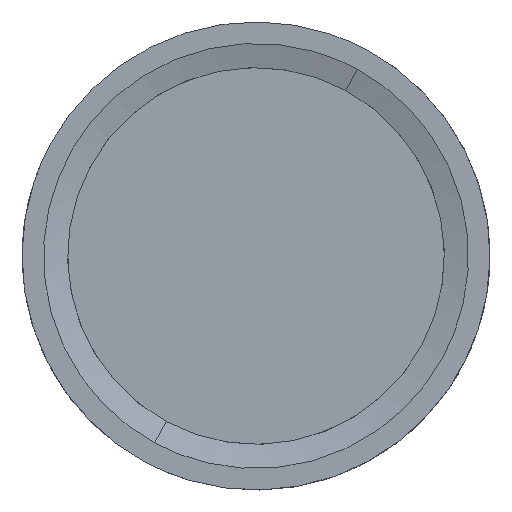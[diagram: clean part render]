
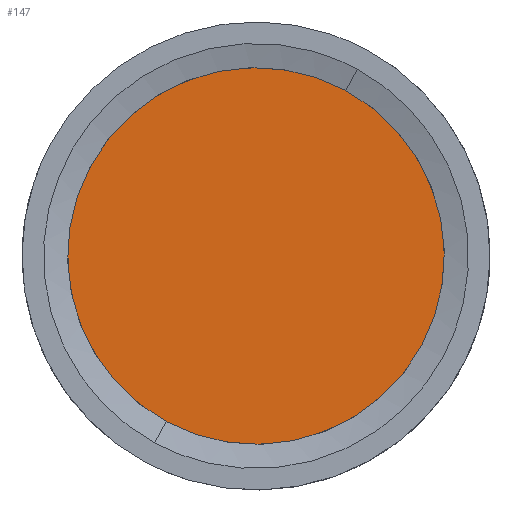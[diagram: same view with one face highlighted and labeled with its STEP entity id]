
A CAD part, left-side view. The second image highlights one B-rep face of the part: STEP entity #147.
In plain terms, the highlighted free-form (B-spline) face has degree [1, 1] with [2, 2] control points.
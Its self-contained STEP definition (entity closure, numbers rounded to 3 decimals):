
#147=ADVANCED_FACE('',(#299),#300,.T.);
#299=FACE_OUTER_BOUND('',#901,.T.);
#300=B_SPLINE_SURFACE_WITH_KNOTS('',1,1,((#902,#903),(#904,#905)),.UNSPECIFIED.,.F.,.F.,.F.,(2,2),(2,2),(0.0,64.0),(0.0,64.),.UNSPECIFIED.);
#901=EDGE_LOOP('',(#1359,#1360,#1361));
#902=CARTESIAN_POINT('',(-13.685,-32.0,-32.0));
#903=CARTESIAN_POINT('',(-13.685,32.,-32.0));
#904=CARTESIAN_POINT('',(-13.685,-32.0,32.0));
#905=CARTESIAN_POINT('',(-13.685,32.,32.0));
#1359=ORIENTED_EDGE('',*,*,#1603,.T.);
#1360=ORIENTED_EDGE('',*,*,#1509,.T.);
#1361=ORIENTED_EDGE('',*,*,#1604,.T.);
#1509=EDGE_CURVE('',#1724,#1728,#1730,.T.);
#1603=EDGE_CURVE('',#1863,#1724,#1864,.T.);
#1604=EDGE_CURVE('',#1728,#1863,#1865,.T.);
#1724=VERTEX_POINT('',#2303);
#1728=VERTEX_POINT('',#2308);
#1730=(B_SPLINE_CURVE(2,(#2312,#2313,#2314,#2315,#2316),.UNSPECIFIED.,.F.,.F.)B_SPLINE_CURVE_WITH_KNOTS((3,2,3),(-1.571,0.,1.571),.UNSPECIFIED.)RATIONAL_B_SPLINE_CURVE((1.0,0.707,1.0,0.707,1.0))BOUNDED_CURVE()REPRESENTATION_ITEM('')GEOMETRIC_REPRESENTATION_ITEM()CURVE());
#1863=VERTEX_POINT('',#2801);
#1864=(B_SPLINE_CURVE(2,(#2803,#2804,#2805),.UNSPECIFIED.,.F.,.F.)B_SPLINE_CURVE_WITH_KNOTS((3,3),(-3.142,-1.571),.UNSPECIFIED.)RATIONAL_B_SPLINE_CURVE((1.0,0.707,1.0))BOUNDED_CURVE()REPRESENTATION_ITEM('')GEOMETRIC_REPRESENTATION_ITEM()CURVE());
#1865=(B_SPLINE_CURVE(2,(#2813,#2814,#2815),.UNSPECIFIED.,.F.,.F.)B_SPLINE_CURVE_WITH_KNOTS((3,3),(1.571,3.142),.UNSPECIFIED.)RATIONAL_B_SPLINE_CURVE((1.0,0.707,1.0))BOUNDED_CURVE()REPRESENTATION_ITEM('')GEOMETRIC_REPRESENTATION_ITEM()CURVE());
#2303=CARTESIAN_POINT('',(-13.685,-15.245,28.135));
#2308=CARTESIAN_POINT('',(-13.685,15.245,-28.135));
#2312=CARTESIAN_POINT('',(-13.685,-15.245,28.135));
#2313=CARTESIAN_POINT('',(-13.685,12.889,43.38));
#2314=CARTESIAN_POINT('',(-13.685,28.135,15.245));
#2315=CARTESIAN_POINT('',(-13.685,43.38,-12.889));
#2316=CARTESIAN_POINT('',(-13.685,15.245,-28.135));
#2801=CARTESIAN_POINT('',(-13.685,-28.135,-15.245));
#2803=CARTESIAN_POINT('',(-13.685,-28.135,-15.245));
#2804=CARTESIAN_POINT('',(-13.685,-43.38,12.889));
#2805=CARTESIAN_POINT('',(-13.685,-15.245,28.135));
#2813=CARTESIAN_POINT('',(-13.685,15.245,-28.135));
#2814=CARTESIAN_POINT('',(-13.685,-12.889,-43.38));
#2815=CARTESIAN_POINT('',(-13.685,-28.135,-15.245));
